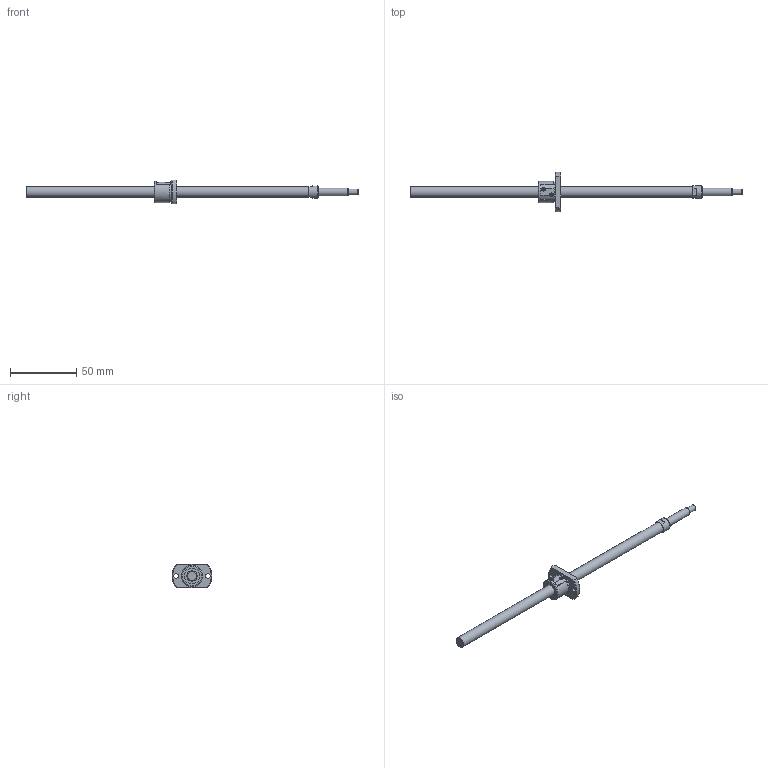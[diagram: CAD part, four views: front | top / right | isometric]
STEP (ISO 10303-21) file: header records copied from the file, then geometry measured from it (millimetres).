
FILE_DESCRIPTION(/* description */ ('STEP AP214'),/* implementation_level */ '2;1');
FILE_NAME(/* name */ 'SG0801-210R250C3A0X(96.5)',/* time_stamp */ '2026-07-21T16:43:03+02:00',/* author */ ('License CC BY-ND 4.0'),/* organization */ ('CADENAS'),/* preprocessor_version */ 'ST-DEVELOPER v20',/* originating_system */ 'PARTsolutions',/* authorisation */ ' ');
FILE_SCHEMA (('AUTOMOTIVE_DESIGN {1 0 10303 214 3 1 1}'));
Length unit declared in the file: millimetre
Products named in the file (3): SG0801-210R250C3A0X(96.5); SG0801-210R250C3A_shaft; SG0801_nut
Assembly tree (2 placements, depth 2):
  SG0801-210R250C3A0X(96.5)
    SG0801-210R250C3A_shaft
    SG0801_nut
Bounding box: 250 x 30 x 18 mm (x, y, z)
Volume: 15425.8 mm3; surface area: 8625.6 mm2
Topology: 2 solids, 2 shells, 74 faces, 182 edges, 119 vertices
Faces by surface type: plane 35, cylinder 25, cone 13, torus 1
Full cylindrical faces by diameter (mm): 3.4 x2, 4.5 x1, 6 x1, 8 x2, 9.5 x1, 12 x2, 15.6 x1, 16 x1
Entity records: 2123 total; most frequent: CARTESIAN_POINT 405, DIRECTION 354, ORIENTED_EDGE 304, EDGE_CURVE 152, AXIS2_PLACEMENT_3D 147, VERTEX_POINT 110, EDGE_LOOP 108, FACE_BOUND 108
